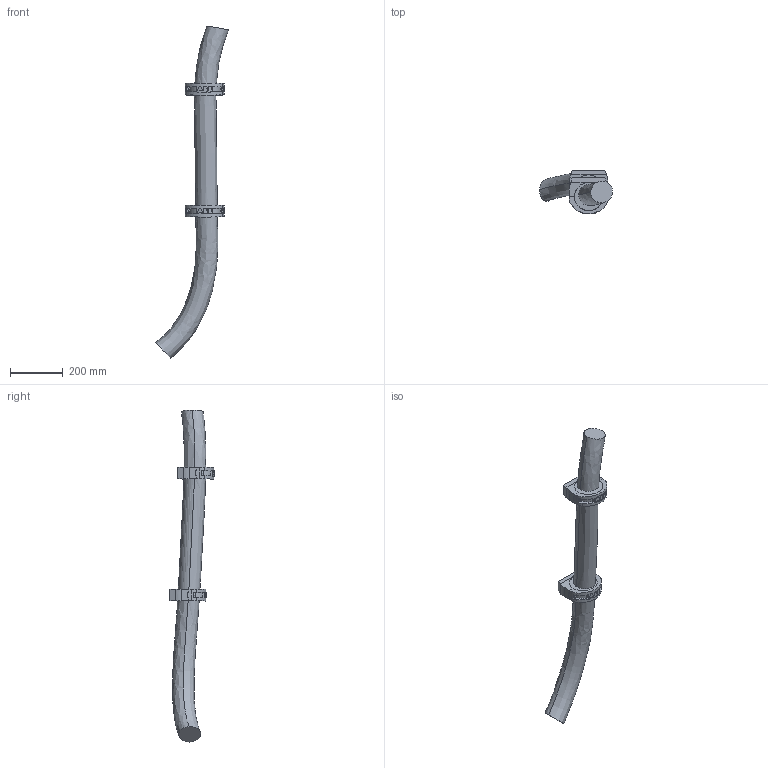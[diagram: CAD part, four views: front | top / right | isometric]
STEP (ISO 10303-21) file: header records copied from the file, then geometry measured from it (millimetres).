
FILE_DESCRIPTION (( 'STEP AP214' ), '1' );
FILE_NAME ('IRB6720-LID-SW_215kg-265_OC_00_LINK02_CABLE.step', '2026-05-26T08:17:10', ( '' ), ( '' ), 'SwSTEP 2.0', 'SolidWorks 2024', '' );
FILE_SCHEMA (( 'AUTOMOTIVE_DESIGN' ));
Length unit declared in the file: millimetre
Products named in the file (1): IRB6720-LID-SW_215kg-265_OC_00_LINK02_CABLE
Bounding box: 277.81 x 167.99 x 1262.64 mm (x, y, z)
Volume: 7809139.4 mm3; surface area: 429805.5 mm2
Topology: 1 solids, 1 shells, 213 faces, 562 edges, 365 vertices
Faces by surface type: plane 132, cylinder 59, bspline 14, cone 8
Entity records: 12834 total; most frequent: CARTESIAN_POINT 5428, ORIENTED_EDGE 1124, DIRECTION 953, EDGE_CURVE 562, VERTEX_POINT 365, LINE 323, VECTOR 323, AXIS2_PLACEMENT_3D 315
